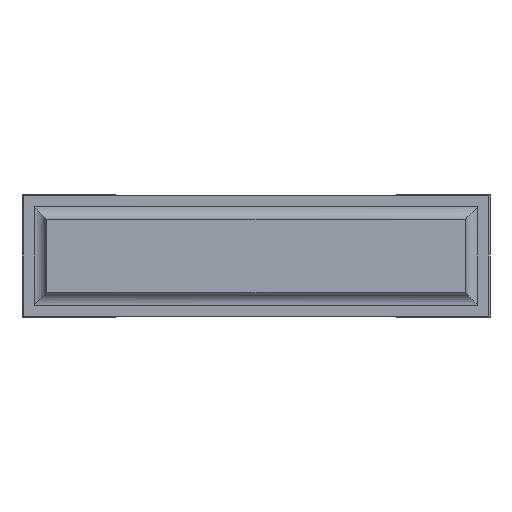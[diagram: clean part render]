
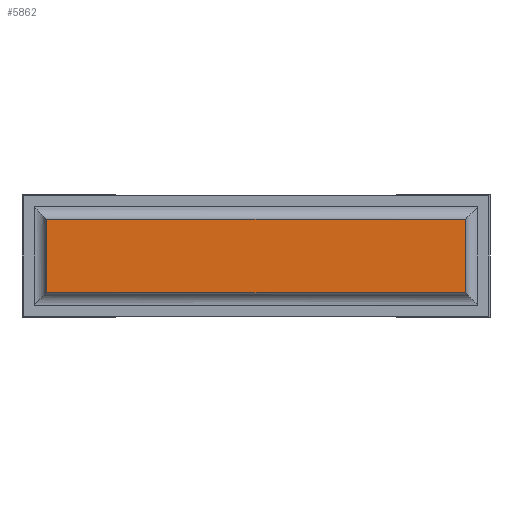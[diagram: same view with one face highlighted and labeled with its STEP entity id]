
A CAD part, front view. The second image highlights one B-rep face of the part: STEP entity #5862.
In plain terms, the highlighted planar face has unit normal (0, -1, 0).
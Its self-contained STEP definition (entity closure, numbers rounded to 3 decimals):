
#66=PLANE('',#6246);
#336=FACE_OUTER_BOUND('',#662,.T.);
#662=EDGE_LOOP('',(#4241,#4242,#4243,#4244));
#1149=LINE('',#8498,#1899);
#1174=LINE('',#8557,#1924);
#1175=LINE('',#8559,#1925);
#1176=LINE('',#8560,#1926);
#1899=VECTOR('',#6850,10.);
#1924=VECTOR('',#6903,10.);
#1925=VECTOR('',#6904,10.);
#1926=VECTOR('',#6905,10.);
#2631=VERTEX_POINT('',#8495);
#2632=VERTEX_POINT('',#8497);
#2652=VERTEX_POINT('',#8556);
#2653=VERTEX_POINT('',#8558);
#3243=EDGE_CURVE('',#2632,#2631,#1149,.T.);
#3273=EDGE_CURVE('',#2631,#2652,#1174,.T.);
#3274=EDGE_CURVE('',#2652,#2653,#1175,.T.);
#3275=EDGE_CURVE('',#2653,#2632,#1176,.T.);
#4241=ORIENTED_EDGE('',*,*,#3273,.T.);
#4242=ORIENTED_EDGE('',*,*,#3274,.T.);
#4243=ORIENTED_EDGE('',*,*,#3275,.T.);
#4244=ORIENTED_EDGE('',*,*,#3243,.T.);
#5862=ADVANCED_FACE('',(#336),#66,.T.);
#6246=AXIS2_PLACEMENT_3D('',#8555,#6901,#6902);
#6850=DIRECTION('',(0.,0.,-1.));
#6901=DIRECTION('center_axis',(0.,-1.,0.));
#6902=DIRECTION('ref_axis',(0.,0.,-1.));
#6903=DIRECTION('',(1.,0.,0.));
#6904=DIRECTION('',(0.,0.,1.));
#6905=DIRECTION('',(-1.,0.,0.));
#8495=CARTESIAN_POINT('',(0.1,0.,0.1));
#8497=CARTESIAN_POINT('',(0.1,0.,0.4));
#8498=CARTESIAN_POINT('',(0.1,0.,0.4));
#8555=CARTESIAN_POINT('Origin',(0.1,0.,0.25));
#8556=CARTESIAN_POINT('',(1.81,0.,0.1));
#8557=CARTESIAN_POINT('',(0.1,0.,0.1));
#8558=CARTESIAN_POINT('',(1.81,0.,0.4));
#8559=CARTESIAN_POINT('',(1.81,0.,0.1));
#8560=CARTESIAN_POINT('',(1.81,0.,0.4));
